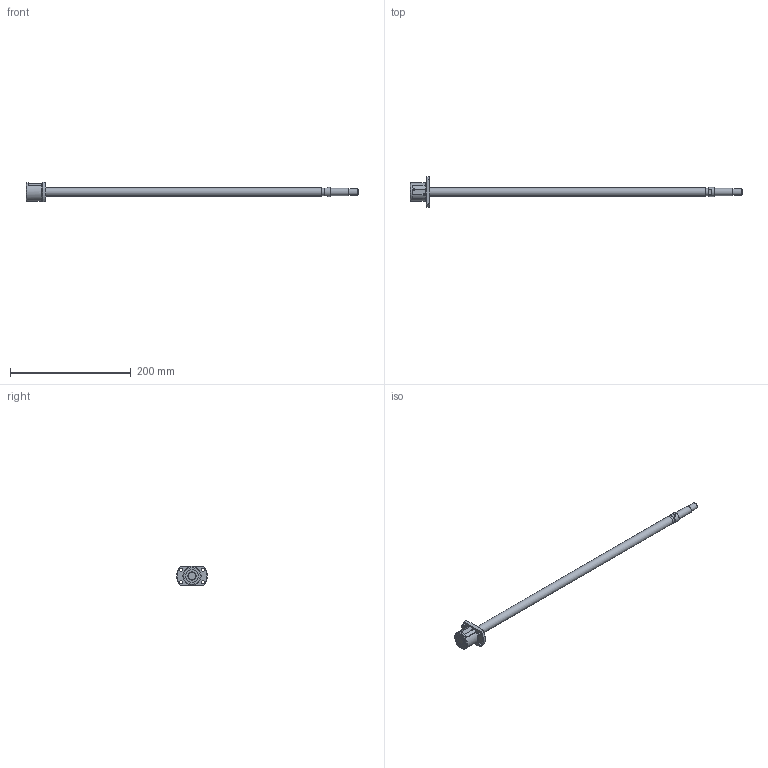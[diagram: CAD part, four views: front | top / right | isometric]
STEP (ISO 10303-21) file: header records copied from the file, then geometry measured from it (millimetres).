
FILE_DESCRIPTION( ( 'STEP AP203' ), '1' );
FILE_NAME( 'e:/temp/worker_94/temp/exporttempdir_5292_101_e8vW4/format_0/SG1404-490R550C5A1X(0).stp', '2021-10-19T03:07:50', ( 'License CC BY-ND 4.0' ), ( 'CADENAS' ), ' ', 'PARTsolutions', ' ' );
FILE_SCHEMA( ( 'CONFIG_CONTROL_DESIGN' ) );
Length unit declared in the file: millimetre
Products named in the file (3): SG1404-490R550C5A1X(0); _SG1404-490R550C5A_shaft; _SG1404 C5_nut
Assembly tree (2 placements, depth 2):
  SG1404-490R550C5A1X(0)
    _SG1404-490R550C5A_shaft
    _SG1404 C5_nut
Bounding box: 550 x 51 x 32 mm (x, y, z)
Volume: 103756.6 mm3; surface area: 31994.9 mm2
Topology: 2 solids, 2 shells, 78 faces, 191 edges, 125 vertices
Faces by surface type: plane 38, cylinder 26, cone 13, torus 1
Full cylindrical faces by diameter (mm): 5.5 x4, 10 x1, 12 x1, 12.16 x1, 14 x2, 15 x1, 21 x2, 29.6 x1, 30 x1
Entity records: 2270 total; most frequent: CARTESIAN_POINT 433, DIRECTION 376, ORIENTED_EDGE 312, AXIS2_PLACEMENT_3D 157, EDGE_CURVE 156, EDGE_LOOP 120, VERTEX_POINT 114, FACE_OUTER_BOUND 93
